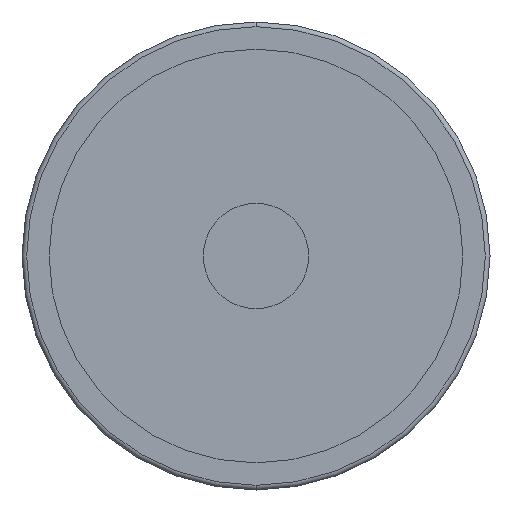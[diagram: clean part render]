
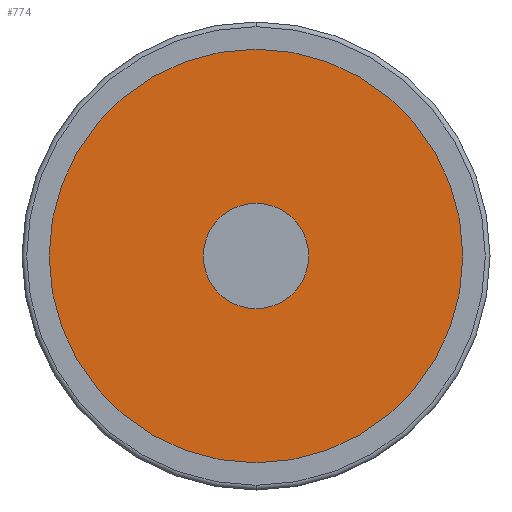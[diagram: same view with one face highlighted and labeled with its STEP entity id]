
A CAD part, front view. The second image highlights one B-rep face of the part: STEP entity #774.
In plain terms, the highlighted planar face has unit normal (0, -1, 0).
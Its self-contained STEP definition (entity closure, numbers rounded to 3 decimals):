
#27 = DIRECTION ( 'NONE',  ( 1., 0., 0. ) ) ;
#42 = DIRECTION ( 'NONE',  ( 0., -1., 0. ) ) ;
#259 = DIRECTION ( 'NONE',  ( 0., -1., 0. ) ) ;
#326 = EDGE_CURVE ( 'NONE', #570, #1370, #851, .T. ) ;
#412 = CARTESIAN_POINT ( 'NONE',  ( 0., 4.5, 0. ) ) ;
#459 = CIRCLE ( 'NONE', #1177, 10.25 ) ;
#570 = VERTEX_POINT ( 'NONE', #2850 ) ;
#700 = CARTESIAN_POINT ( 'NONE',  ( 0., 4.5, 0. ) ) ;
#747 = CARTESIAN_POINT ( 'NONE',  ( 0., 4.5, 0. ) ) ;
#774 = ADVANCED_FACE ( 'NONE', ( #1520, #1749 ), #2519, .T. ) ;
#851 = CIRCLE ( 'NONE', #2201, 44.3 ) ;
#929 = DIRECTION ( 'NONE',  ( 0., -1., 0. ) ) ;
#1002 = ORIENTED_EDGE ( 'NONE', *, *, #1518, .F. ) ;
#1177 = AXIS2_PLACEMENT_3D ( 'NONE', #747, #2733, #3201 ) ;
#1199 = EDGE_LOOP ( 'NONE', ( #2984, #3235 ) ) ;
#1370 = VERTEX_POINT ( 'NONE', #2684 ) ;
#1409 = EDGE_LOOP ( 'NONE', ( #2234, #1002 ) ) ;
#1517 = DIRECTION ( 'NONE',  ( 1., 0., 0. ) ) ;
#1518 = EDGE_CURVE ( 'NONE', #1902, #2555, #459, .T. ) ;
#1520 = FACE_OUTER_BOUND ( 'NONE', #1199, .T. ) ;
#1526 = AXIS2_PLACEMENT_3D ( 'NONE', #2680, #42, #1517 ) ;
#1621 = CIRCLE ( 'NONE', #1526, 44.3 ) ;
#1720 = EDGE_CURVE ( 'NONE', #2555, #1902, #1744, .T. ) ;
#1744 = CIRCLE ( 'NONE', #2374, 10.25 ) ;
#1749 = FACE_BOUND ( 'NONE', #1409, .T. ) ;
#1902 = VERTEX_POINT ( 'NONE', #2239 ) ;
#1908 = DIRECTION ( 'NONE',  ( 0., -1., 0. ) ) ;
#1973 = CARTESIAN_POINT ( 'NONE',  ( 10.25, 4.5, 0. ) ) ;
#2178 = DIRECTION ( 'NONE',  ( 1., 0., 0. ) ) ;
#2201 = AXIS2_PLACEMENT_3D ( 'NONE', #700, #929, #2178 ) ;
#2234 = ORIENTED_EDGE ( 'NONE', *, *, #1720, .F. ) ;
#2239 = CARTESIAN_POINT ( 'NONE',  ( -10.25, 4.5, 0. ) ) ;
#2374 = AXIS2_PLACEMENT_3D ( 'NONE', #412, #1908, #2407 ) ;
#2407 = DIRECTION ( 'NONE',  ( 1., 0., 0. ) ) ;
#2519 = PLANE ( 'NONE',  #2522 ) ;
#2522 = AXIS2_PLACEMENT_3D ( 'NONE', #2542, #259, #27 ) ;
#2542 = CARTESIAN_POINT ( 'NONE',  ( -44.3, 4.5, 0. ) ) ;
#2555 = VERTEX_POINT ( 'NONE', #1973 ) ;
#2680 = CARTESIAN_POINT ( 'NONE',  ( 0., 4.5, 0. ) ) ;
#2684 = CARTESIAN_POINT ( 'NONE',  ( 44.3, 4.5, 0. ) ) ;
#2733 = DIRECTION ( 'NONE',  ( 0., -1., 0. ) ) ;
#2850 = CARTESIAN_POINT ( 'NONE',  ( -44.3, 4.5, 0. ) ) ;
#2936 = EDGE_CURVE ( 'NONE', #1370, #570, #1621, .T. ) ;
#2984 = ORIENTED_EDGE ( 'NONE', *, *, #326, .T. ) ;
#3201 = DIRECTION ( 'NONE',  ( 1., 0., 0. ) ) ;
#3235 = ORIENTED_EDGE ( 'NONE', *, *, #2936, .T. ) ;
